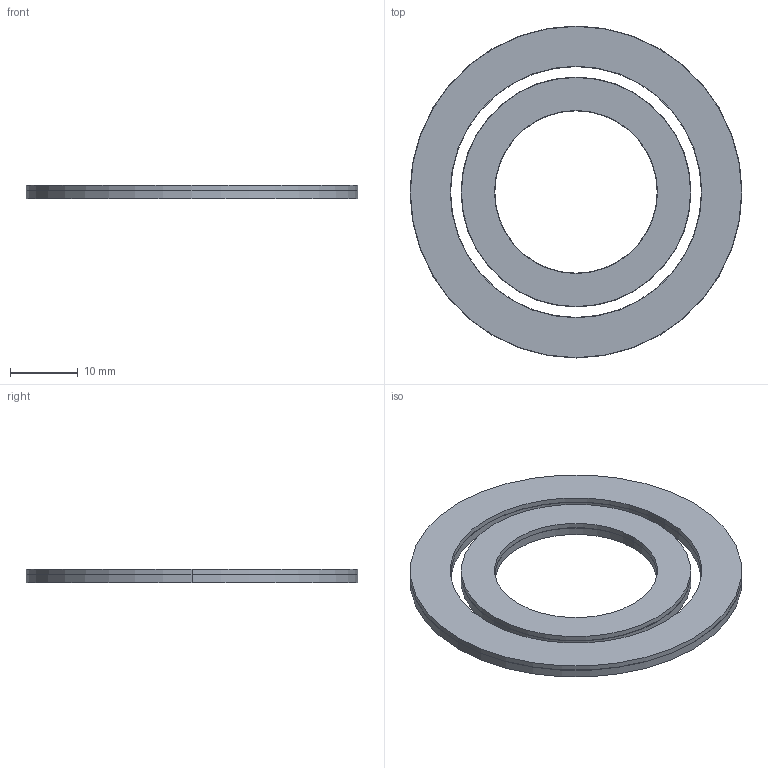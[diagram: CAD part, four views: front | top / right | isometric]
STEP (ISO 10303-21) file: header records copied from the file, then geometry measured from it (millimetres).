
FILE_DESCRIPTION((''),'2;1');
FILE_NAME('M18-24-34-1_96-51_ASM_1_ASM_1_A_ASM','2026-09-02T',('guxinfeng'),(''),'PRO/ENGINEER BY PARAMETRIC TECHNOLOGY CORPORATION, 2012480','PRO/ENGINEER BY PARAMETRIC TECHNOLOGY CORPORATION, 2012480','');
FILE_SCHEMA(('CONFIG_CONTROL_DESIGN'));
Length unit declared in the file: millimetre
Products named in the file (8): PRT0023_1_1_1; PRT0024_1_1_1; M18-24-34-1_96-51_OBJEC-1344209_ASM; PRT0025_1_1_1; PRT0026_1_1_1; M2G-37_1-49_1-1_96-37_O-1344755_ASM; M2G-37_1-49_1-1_96-37_ASM_1_ASM_ASM; M18-24-34-1_96-51_ASM_1_ASM_1_A_ASM
Assembly tree (7 placements, depth 4):
  M18-24-34-1_96-51_ASM_1_ASM_1_A_ASM
    M18-24-34-1_96-51_OBJEC-1344209_ASM
      PRT0023_1_1_1
      PRT0024_1_1_1
    M2G-37_1-49_1-1_96-37_ASM_1_ASM_ASM
      M2G-37_1-49_1-1_96-37_O-1344755_ASM
        PRT0025_1_1_1
        PRT0026_1_1_1
Bounding box: 49.1 x 49.1 x 1.96 mm (x, y, z)
Volume: 2468 mm3; surface area: 5914.4 mm2
Topology: 4 solids, 4 shells, 24 faces, 48 edges, 32 vertices
Faces by surface type: cylinder 16, plane 8
Entity records: 1096 total; most frequent: DIRECTION 168, CARTESIAN_POINT 124, ORIENTED_EDGE 96, AXIS2_PLACEMENT_3D 76, EDGE_CURVE 48, VERTEX_POINT 32, EDGE_LOOP 32, CIRCLE 32
